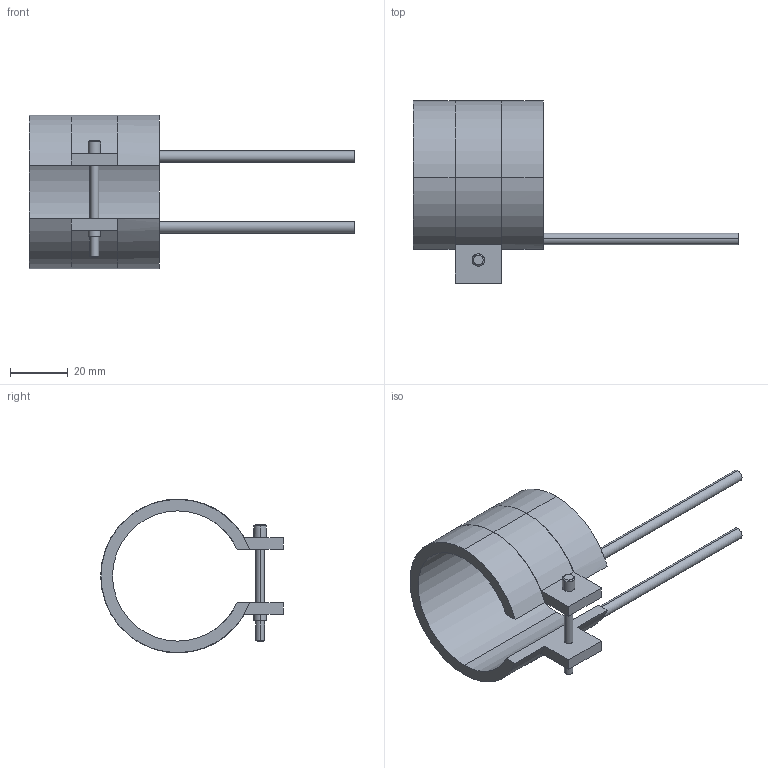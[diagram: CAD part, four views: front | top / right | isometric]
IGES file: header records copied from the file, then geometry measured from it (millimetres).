
Start section: START RECORD GO HERE.
Global section: file name: 14045045.igs; native system: DASSAULT SYSTEMES CATIA V5 R20 - www.3ds.com; preprocessor: CATIA Version 5 Release 20 ; author: Utente; organization: NB04-ASUS; date: 20210331.135740; units: millimetre
Bounding box: 112.5 x 63.1 x 53.2 mm (x, y, z)
Surface area: 16652.4 mm2 (no closed solid volume)
Topology: 0 solids, 0 shells, 45 faces, 232 edges, 232 vertices
Faces by surface type: revolution 28, plane 17
